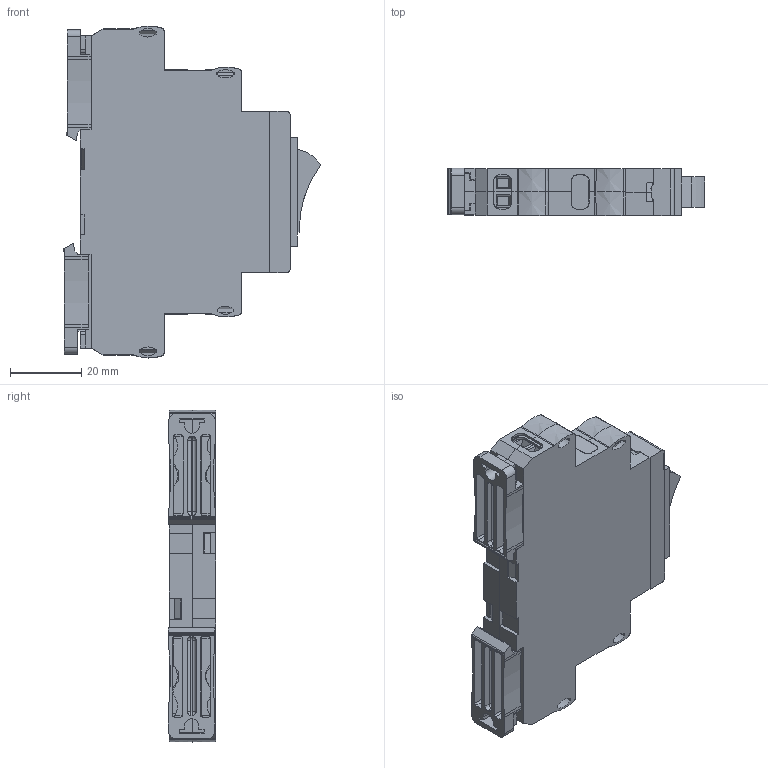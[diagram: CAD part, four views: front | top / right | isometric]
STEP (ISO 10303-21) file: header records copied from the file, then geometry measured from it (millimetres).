
FILE_DESCRIPTION(('STEP AP242'), '1');
FILE_NAME('Ñáîðêà_ÂÊÌ-1ç', '', ('UNSPECIFIED'), ('UNSPECIFIED'), 'C3D Converter', 'C3D Toolkit', '');
FILE_SCHEMA(('AP242_MANAGED_MODEL_BASED_3D_ENGINEERING_MIM_LF { 1 0 10303 442 1 1 4 }'));
Length unit declared in the file: millimetre
Products named in the file (14): Case13-18-23mm_2step_Half_v01a_Build20140909_1552_6.5mm; Case13-18-23mm_2step_Lock_v01a_Build20140909_1552; Case13_Face; Case13_plug; toggle swith
Assembly tree (23 placements, depth 3):
  (unnamed)
    Case13-18-23mm_2step_Half_v01a_Build20140909_1552_6.5mm
    Case13-18-23mm_2step_Lock_v01a_Build20140909_1552  x2
    Case13-18-23mm_2step_Half_v01a_Build20140909_1552_6.5mm
    Case13_Face
    (unnamed)  x4
      (unnamed)
    Case13_plug  x6
    (unnamed)
    (unnamed)
    toggle swith
      (unnamed)
    (unnamed)
    (unnamed)
Bounding box: 72.04 x 13.2 x 92.99 mm (x, y, z)
Volume: 25592.6 mm3; surface area: 42762.7 mm2
Topology: 191 solids, 193 shells, 8416 faces, 23830 edges, 15828 vertices
Faces by surface type: plane 6579, extrusion 1444, cylinder 319, revolution 30, cone 24, bspline 8, sphere 8, torus 4
Full cylindrical faces by diameter (mm): 1.238 x8, 2 x3, 3 x2, 3.9 x8
Entity records: 324572 total; most frequent: CARTESIAN_POINT 61785, ORIENTED_EDGE 44570, DIRECTION 33889, EDGE_CURVE 22285, VECTOR 20263, LINE 18819, VERTEX_POINT 14856, EDGE_LOOP 8027
